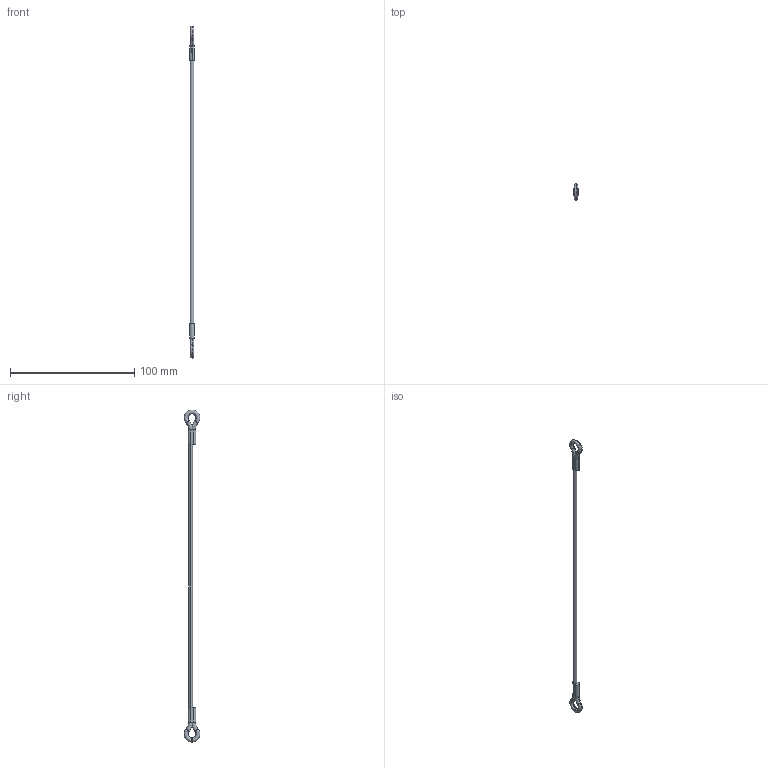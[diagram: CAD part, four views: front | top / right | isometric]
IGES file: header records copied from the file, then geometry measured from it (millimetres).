
Start section: SolidWorks IGES file using analytic representation for surfaces
Global section: file name: C:\Users\ianosborn\Desktop\LA1065_v2\LA1065_v2_20260320_IGES\LA1065.I06-254B1.igs; native system: SolidWorks 2019; preprocessor: SolidWorks 2019; author: IanOsborn; date: 260323.154448; units: millimetre
Bounding box: 3.99 x 12.77 x 266.76 mm (x, y, z)
Surface area: 3254.4 mm2 (no closed solid volume)
Topology: 0 solids, 0 shells, 30 faces, 416 edges, 416 vertices
Faces by surface type: bspline 22, revolution 8
